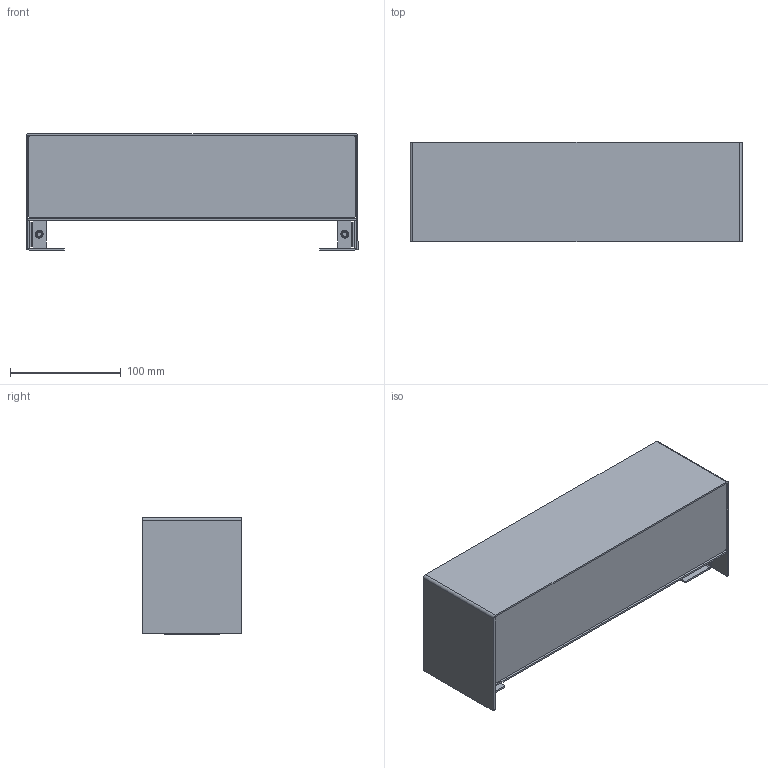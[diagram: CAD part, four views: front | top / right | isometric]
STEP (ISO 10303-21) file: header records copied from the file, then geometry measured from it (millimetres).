
FILE_DESCRIPTION (( 'STEP AP214' ), '1' );
FILE_NAME ('3D_VIIVA_30.STEP', '2018-03-14T15:25:17', ( 'Utente' ), ( '' ), 'SwSTEP 2.0', 'SolidWorks 2016', '' );
FILE_SCHEMA (( 'AUTOMOTIVE_DESIGN' ));
Length unit declared in the file: millimetre
Products named in the file (3): Group2^3D_VIIVA_30; Group1^3D_VIIVA_30; 3D_VIIVA_30
Assembly tree (2 placements, depth 2):
  3D_VIIVA_30
    Group1^3D_VIIVA_30
    Group2^3D_VIIVA_30
Bounding box: 300 x 90 x 105.5 mm (x, y, z)
Volume: 251453.3 mm3; surface area: 253791.4 mm2
Topology: 3 solids, 3 shells, 294 faces, 696 edges, 420 vertices
Faces by surface type: plane 184, cylinder 86, torus 12, cone 8, sphere 4
Entity records: 10001 total; most frequent: DIRECTION 1534, CARTESIAN_POINT 1415, ORIENTED_EDGE 1392, EDGE_CURVE 696, AXIS2_PLACEMENT_3D 539, VECTOR 456, LINE 456, VERTEX_POINT 420
